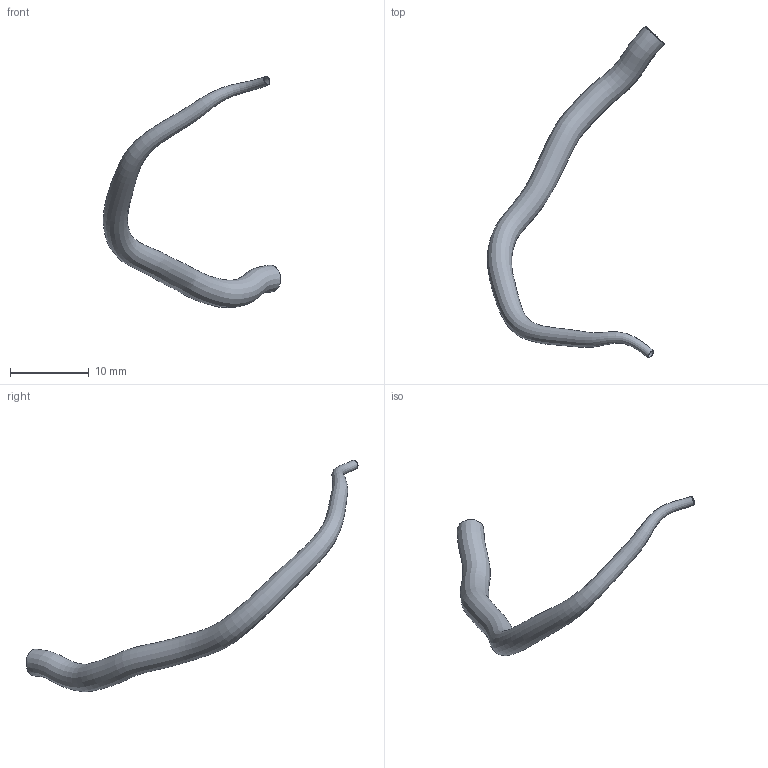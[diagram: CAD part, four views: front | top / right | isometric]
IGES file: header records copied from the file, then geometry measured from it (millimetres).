
Global section: file name: C:\Documents and Settings\Administrator\Desktop\FDA-Pig\Domestic LCA\Pig_000006\lcx.seg.ed.igs; native system: Rhinoceros ( May 19 2006 ); preprocessor: Trout Lake IGES 012 May 19 2006; date: 111205.183612; units: centimetre
Bounding box: 22.59 x 42.28 x 29.48 mm (x, y, z)
Surface area: 1211.9 mm2 (no closed solid volume)
Topology: 0 solids, 0 shells, 4 faces, 14 edges, 10 vertices
Faces by surface type: bspline 4
